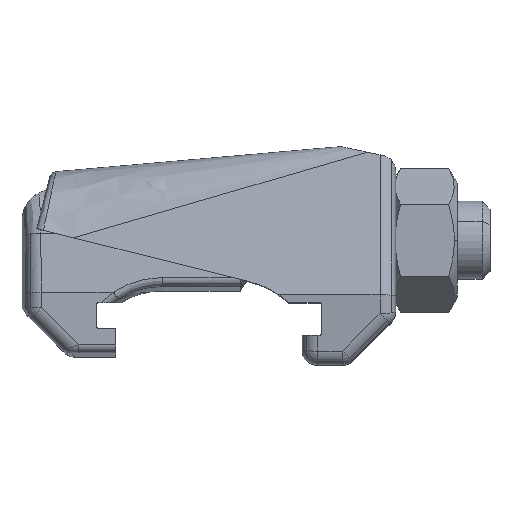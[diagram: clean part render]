
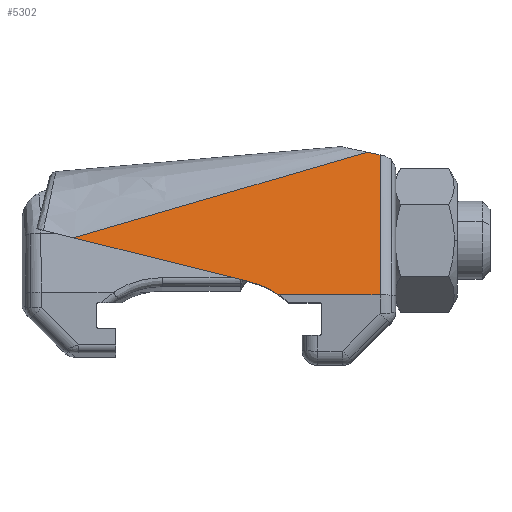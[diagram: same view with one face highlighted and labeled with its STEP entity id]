
A CAD part, top view. The second image highlights one B-rep face of the part: STEP entity #5302.
In plain terms, the highlighted planar face has unit normal (0, 0.174, 0.985).
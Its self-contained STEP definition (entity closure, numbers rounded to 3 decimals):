
#4275=CARTESIAN_POINT('',(-6.832,2.726,23.696));
#4276=VERTEX_POINT('',#4275);
#4283=CARTESIAN_POINT('',(-29.266,8.32,22.709));
#4284=VERTEX_POINT('',#4283);
#4285=CARTESIAN_POINT('',(-6.832,2.726,23.696));
#4286=DIRECTION('',(-0.969,0.242,-0.043));
#4287=VECTOR('',#4286,23.142);
#4288=LINE('',#4285,#4287);
#4289=EDGE_CURVE('',#4284,#4276,#4288,.F.);
#4705=CARTESIAN_POINT('',(10.,18.956,20.834));
#4706=VERTEX_POINT('',#4705);
#4714=CARTESIAN_POINT('',(10.,1.,24.));
#4715=VERTEX_POINT('',#4714);
#4716=CARTESIAN_POINT('',(10.,1.,24.));
#4717=DIRECTION('',(0.,0.985,-0.174));
#4718=VECTOR('',#4717,18.233);
#4719=LINE('',#4716,#4718);
#4720=EDGE_CURVE('',#4706,#4715,#4719,.F.);
#5224=CARTESIAN_POINT('',(-2.979,1.,24.));
#5225=VERTEX_POINT('',#5224);
#5226=CARTESIAN_POINT('',(10.,1.,24.));
#5227=DIRECTION('',(-1.0,0.0,0.0));
#5228=VECTOR('',#5227,12.979);
#5229=LINE('',#5226,#5228);
#5230=EDGE_CURVE('',#5225,#4715,#5229,.F.);
#5256=CARTESIAN_POINT('',(12.,20.018,20.647));
#5257=DIRECTION('',(0.,0.174,0.985));
#5258=DIRECTION('',(1.0,0.0,0.0));
#5259=AXIS2_PLACEMENT_3D('',#5256,#5257,#5258);
#5260=PLANE('',#5259);
#5261=ORIENTED_EDGE('',*,*,#4720,.F.);
#5262=CARTESIAN_POINT('',(8.35,19.306,20.772));
#5263=VERTEX_POINT('',#5262);
#5264=CARTESIAN_POINT('',(8.35,19.306,20.772));
#5265=DIRECTION('',(0.977,-0.208,0.037));
#5266=VECTOR('',#5265,1.688);
#5267=LINE('',#5264,#5266);
#5268=EDGE_CURVE('',#4706,#5263,#5267,.F.);
#5269=ORIENTED_EDGE('',*,*,#5268,.T.);
#5270=CARTESIAN_POINT('',(8.35,19.306,20.772));
#5271=CARTESIAN_POINT('',(7.44,19.04,20.819));
#5272=CARTESIAN_POINT('',(6.529,18.775,20.866));
#5273=CARTESIAN_POINT('',(3.716,17.953,21.011));
#5274=CARTESIAN_POINT('',(1.813,17.397,21.109));
#5275=CARTESIAN_POINT('',(-1.994,16.285,21.305));
#5276=CARTESIAN_POINT('',(-3.897,15.729,21.403));
#5277=CARTESIAN_POINT('',(-7.704,14.617,21.599));
#5278=CARTESIAN_POINT('',(-9.607,14.061,21.697));
#5279=CARTESIAN_POINT('',(-13.414,12.95,21.893));
#5280=CARTESIAN_POINT('',(-15.317,12.394,21.991));
#5281=CARTESIAN_POINT('',(-19.124,11.282,22.187));
#5282=CARTESIAN_POINT('',(-21.027,10.726,22.285));
#5283=CARTESIAN_POINT('',(-24.834,9.614,22.481));
#5284=CARTESIAN_POINT('',(-26.737,9.058,22.579));
#5285=CARTESIAN_POINT('',(-28.849,8.441,22.688));
#5286=CARTESIAN_POINT('',(-29.057,8.38,22.699));
#5287=CARTESIAN_POINT('',(-29.266,8.32,22.709));
#5288=B_SPLINE_CURVE_WITH_KNOTS('',3,(#5270,#5271,#5272,#5273,#5274,#5275,#5276,#5277,#5278,#5279,#5280,#5281,#5282,#5283,#5284,#5285,#5286,#5287),.UNSPECIFIED.,.F.,.U.,(4,2,2,2,2,2,2,2,4),(-0.896,-0.617,-0.033,0.551,1.134,1.718,2.302,2.886,2.95),.UNSPECIFIED.);
#5289=EDGE_CURVE('',#4284,#5263,#5288,.F.);
#5290=ORIENTED_EDGE('',*,*,#5289,.F.);
#5291=ORIENTED_EDGE('',*,*,#4289,.T.);
#5292=CARTESIAN_POINT('',(-9.735,-8.917,25.749));
#5293=DIRECTION('',(0.,0.174,0.985));
#5294=DIRECTION('',(0.,-0.985,0.174));
#5295=AXIS2_PLACEMENT_3D('',#5292,#5293,#5294);
#5296=ELLIPSE('',#5295,12.185,12.);
#5297=EDGE_CURVE('',#4276,#5225,#5296,.F.);
#5298=ORIENTED_EDGE('',*,*,#5297,.T.);
#5299=ORIENTED_EDGE('',*,*,#5230,.T.);
#5300=EDGE_LOOP('',(#5261,#5269,#5290,#5291,#5298,#5299));
#5301=FACE_OUTER_BOUND('',#5300,.T.);
#5302=ADVANCED_FACE('',(#5301),#5260,.T.);
